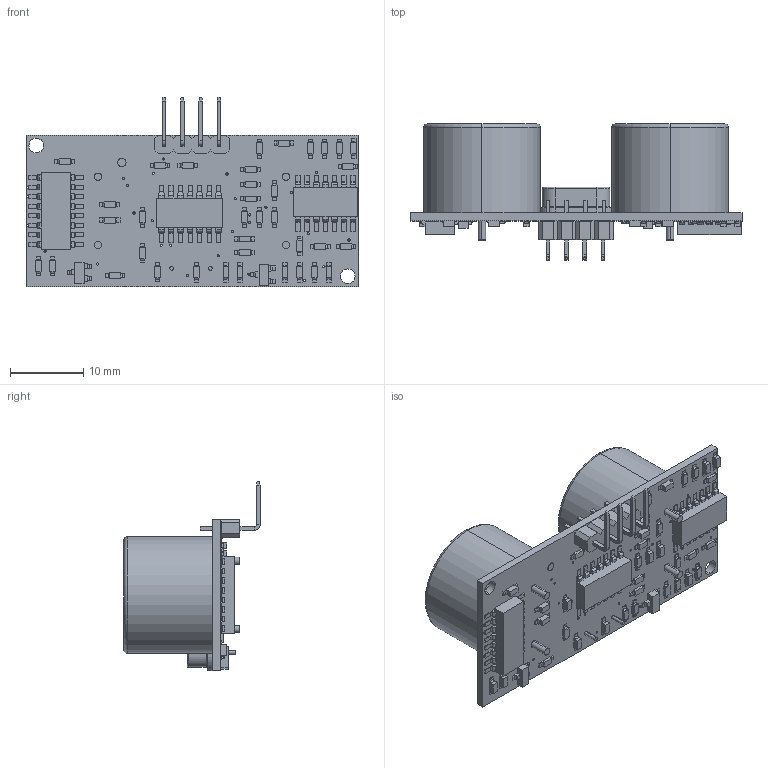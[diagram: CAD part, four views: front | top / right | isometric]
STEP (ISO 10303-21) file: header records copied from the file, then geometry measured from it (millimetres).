
FILE_DESCRIPTION (( 'STEP AP214' ), '1' );
FILE_NAME ('hc-sr04.STEP', '2019-11-22T17:13:51', ( '' ), ( '' ), 'SwSTEP 2.0', 'SolidWorks 2018', '' );
FILE_SCHEMA (( 'AUTOMOTIVE_DESIGN' ));
Length unit declared in the file: millimetre
Products named in the file (1): hc-sr04
Bounding box: 45.2 x 18.55 x 25.75 mm (x, y, z)
Volume: 3835.1 mm3; surface area: 5471.2 mm2
Topology: 1 solids, 3 shells, 1464 faces, 4192 edges, 2772 vertices
Faces by surface type: plane 1176, cylinder 280, torus 8
Entity records: 63724 total; most frequent: CARTESIAN_POINT 8429, ORIENTED_EDGE 8384, DIRECTION 7792, EDGE_CURVE 4192, VECTOR 3522, LINE 3522, VERTEX_POINT 2772, AXIS2_PLACEMENT_3D 2135
